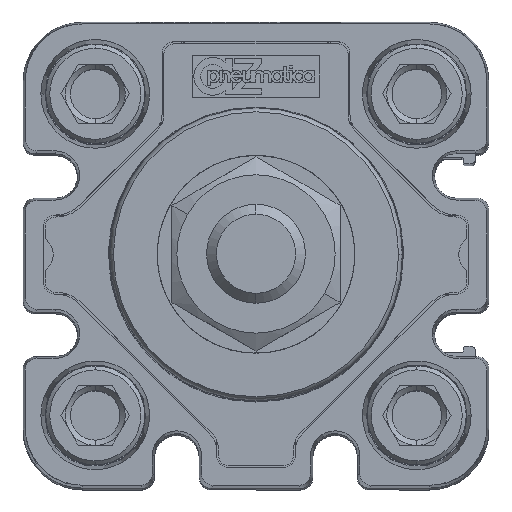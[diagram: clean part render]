
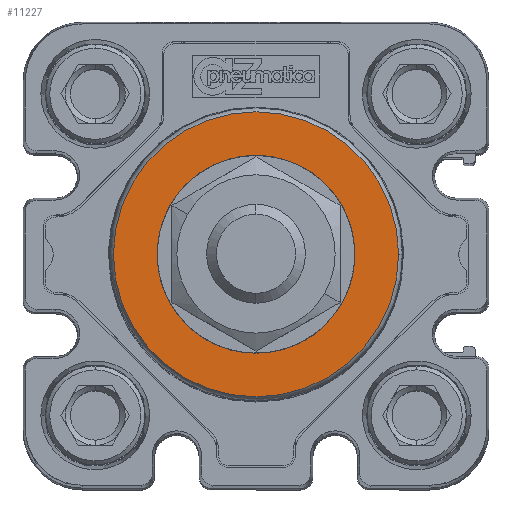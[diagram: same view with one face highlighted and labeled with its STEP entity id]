
A CAD part, top view. The second image highlights one B-rep face of the part: STEP entity #11227.
In plain terms, the highlighted planar face has unit normal (0, 0, 1) as drawn and (0, 0, -1) by its records, which use the part's own axes.
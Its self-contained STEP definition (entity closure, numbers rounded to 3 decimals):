
#908 = DIRECTION ( 'NONE',  ( -1., 0., 0. ) ) ;
#3286 = PLANE ( 'NONE',  #42454 ) ;
#9884 = DIRECTION ( 'NONE',  ( -1., 0., 0. ) ) ;
#10351 = ORIENTED_EDGE ( 'NONE', *, *, #49882, .F. ) ;
#10914 = EDGE_LOOP ( 'NONE', ( #10351, #20762 ) ) ;
#11227 = ADVANCED_FACE ( 'NONE', ( #33299, #19168 ), #3286, .T. ) ;
#14376 = CARTESIAN_POINT ( 'NONE',  ( 0., 0., -42.7 ) ) ;
#16180 = DIRECTION ( 'NONE',  ( 0., 0., -1. ) ) ;
#19168 = FACE_OUTER_BOUND ( 'NONE', #54671, .T. ) ;
#20664 = CARTESIAN_POINT ( 'NONE',  ( 0., 0., -42.7 ) ) ;
#20762 = ORIENTED_EDGE ( 'NONE', *, *, #22239, .F. ) ;
#21605 = DIRECTION ( 'NONE',  ( -1., 0., 0. ) ) ;
#21663 = CIRCLE ( 'NONE', #59372, 14.408 ) ;
#21880 = VERTEX_POINT ( 'NONE', #34913 ) ;
#22239 = EDGE_CURVE ( 'NONE', #51012, #61023, #27555, .T. ) ;
#24578 = CARTESIAN_POINT ( 'NONE',  ( -14.408, 0., -42.7 ) ) ;
#27555 = CIRCLE ( 'NONE', #31528, 10. ) ;
#30598 = DIRECTION ( 'NONE',  ( -1., 0., 0. ) ) ;
#31072 = DIRECTION ( 'NONE',  ( 0., 0., 1. ) ) ;
#31528 = AXIS2_PLACEMENT_3D ( 'NONE', #49805, #16180, #21605 ) ;
#32504 = CIRCLE ( 'NONE', #49065, 10. ) ;
#33299 = FACE_BOUND ( 'NONE', #10914, .T. ) ;
#34253 = CARTESIAN_POINT ( 'NONE',  ( 10., 0., -42.7 ) ) ;
#34521 = DIRECTION ( 'NONE',  ( 0., 0., 1. ) ) ;
#34913 = CARTESIAN_POINT ( 'NONE',  ( 14.408, 0., -42.7 ) ) ;
#35282 = EDGE_CURVE ( 'NONE', #21880, #48027, #21663, .T. ) ;
#40293 = CARTESIAN_POINT ( 'NONE',  ( -10., 0., -42.7 ) ) ;
#42454 = AXIS2_PLACEMENT_3D ( 'NONE', #71589, #42563, #59578 ) ;
#42563 = DIRECTION ( 'NONE',  ( 0., 0., -1. ) ) ;
#43845 = ORIENTED_EDGE ( 'NONE', *, *, #54277, .F. ) ;
#48027 = VERTEX_POINT ( 'NONE', #24578 ) ;
#49065 = AXIS2_PLACEMENT_3D ( 'NONE', #20664, #71572, #9884 ) ;
#49805 = CARTESIAN_POINT ( 'NONE',  ( 0., 0., -42.7 ) ) ;
#49882 = EDGE_CURVE ( 'NONE', #61023, #51012, #32504, .T. ) ;
#51012 = VERTEX_POINT ( 'NONE', #34253 ) ;
#54277 = EDGE_CURVE ( 'NONE', #48027, #21880, #55472, .T. ) ;
#54671 = EDGE_LOOP ( 'NONE', ( #43845, #61426 ) ) ;
#55472 = CIRCLE ( 'NONE', #66374, 14.408 ) ;
#59372 = AXIS2_PLACEMENT_3D ( 'NONE', #14376, #31072, #30598 ) ;
#59578 = DIRECTION ( 'NONE',  ( -1., 0., 0. ) ) ;
#61023 = VERTEX_POINT ( 'NONE', #40293 ) ;
#61426 = ORIENTED_EDGE ( 'NONE', *, *, #35282, .F. ) ;
#66374 = AXIS2_PLACEMENT_3D ( 'NONE', #68159, #34521, #908 ) ;
#68159 = CARTESIAN_POINT ( 'NONE',  ( 0., 0., -42.7 ) ) ;
#71572 = DIRECTION ( 'NONE',  ( 0., 0., -1. ) ) ;
#71589 = CARTESIAN_POINT ( 'NONE',  ( 0., 0., -42.7 ) ) ;
